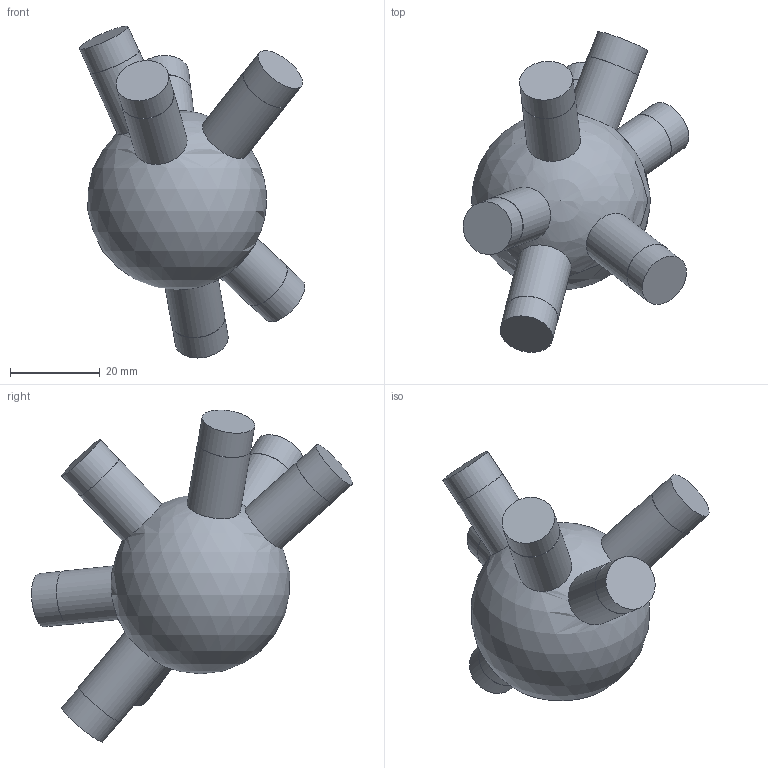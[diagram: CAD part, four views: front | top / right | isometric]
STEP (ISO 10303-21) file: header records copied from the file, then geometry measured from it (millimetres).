
FILE_DESCRIPTION(('Open CASCADE Model'),'2;1');
FILE_NAME('Open CASCADE Shape Model','2026-10-21T12:47:57',('Author'),( 'Open CASCADE'),'Open CASCADE STEP processor 7.9','Open CASCADE 7.9' ,'Unknown');
FILE_SCHEMA(('AUTOMOTIVE_DESIGN { 1 0 10303 214 1 1 1 1 }'));
Length unit declared in the file: millimetre
Products named in the file (1): Open CASCADE STEP translator 7.9 81
Bounding box: 50.23 x 71.5 x 73.98 mm (x, y, z)
Volume: 49313.3 mm3; surface area: 10407.2 mm2
Topology: 1 solids, 1 shells, 29 faces, 49 edges, 33 vertices
Faces by surface type: cylinder 14, plane 14, sphere 1
Full cylindrical faces by diameter (mm): 11.9 x7, 12 x7
Entity records: 1902 total; most frequent: CARTESIAN_POINT 836, DIRECTION 217, ORIENTED_EDGE 92, PCURVE 92, DEFINITIONAL_REPRESENTATION 92, LINE 72, VECTOR 72, AXIS2_PLACEMENT_3D 62
